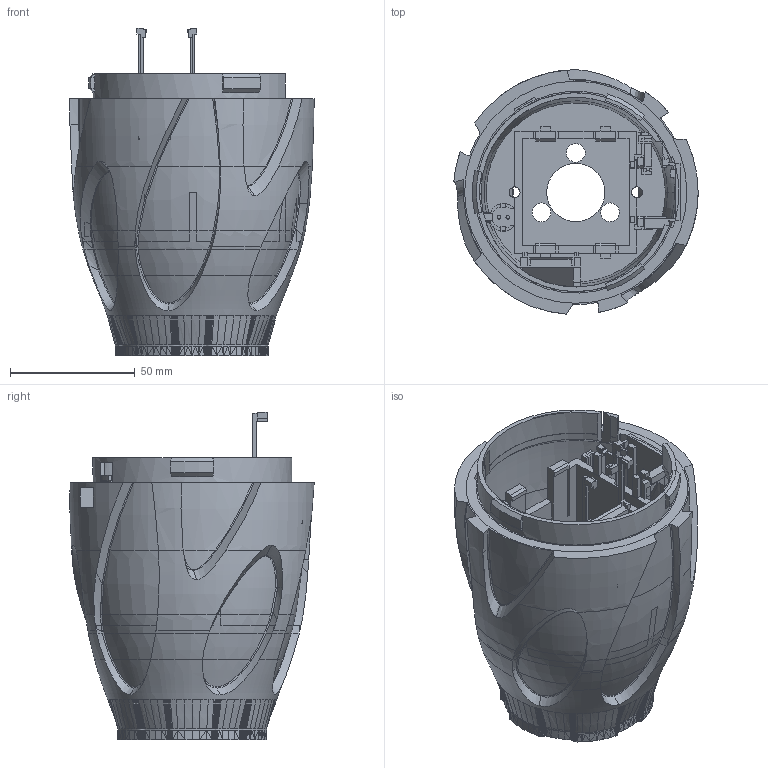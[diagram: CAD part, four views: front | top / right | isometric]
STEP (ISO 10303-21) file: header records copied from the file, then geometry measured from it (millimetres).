
FILE_DESCRIPTION(('Open CASCADE Model'),'2;1');
FILE_NAME('Open CASCADE Shape Model','2026-09-09T23:05:16',('Author'),( 'Open CASCADE'),'Open CASCADE STEP processor 7.9','Open CASCADE 7.9' ,'Unknown');
FILE_SCHEMA(('AUTOMOTIVE_DESIGN { 1 0 10303 214 1 1 1 1 }'));
Products named in the file (1): Open CASCADE STEP translator 7.9 2
Bounding box: 97.83 x 97.88 x 131.2 mm (x, y, z)
Volume: 201137.8 mm3; surface area: 94162.2 mm2
Topology: 1 solids, 1 shells, 3864 faces, 9049 edges, 5140 vertices
Faces by surface type: plane 3044, bspline 589, revolution 104, extrusion 81, cylinder 35, cone 11
Full cylindrical faces by diameter (mm): 1.4 x2, 4.4 x2, 7.508 x3, 23.3 x1
Entity records: 153773 total; most frequent: CARTESIAN_POINT 75355, ORIENTED_EDGE 18034, DIRECTION 13031, EDGE_CURVE 9017, VECTOR 5873, LINE 5792, VERTEX_POINT 5140, FACE_BOUND 3893
